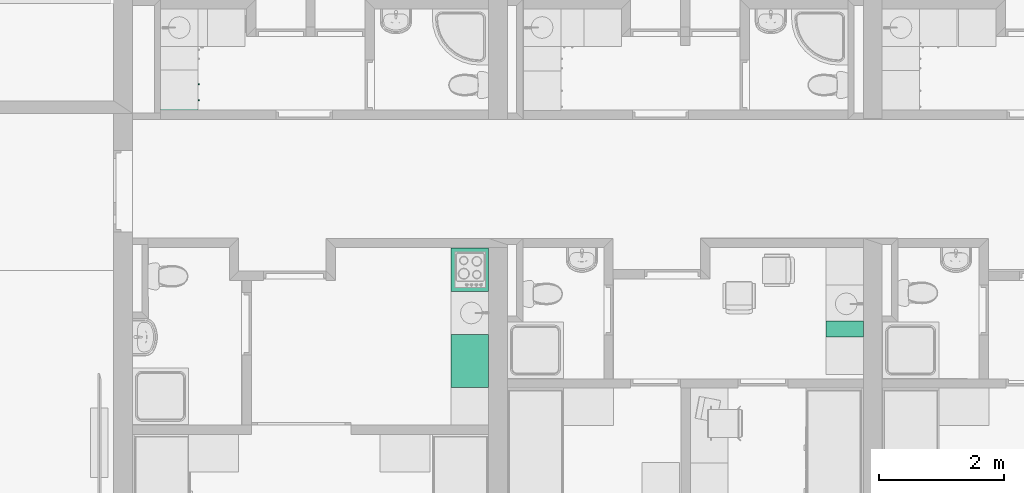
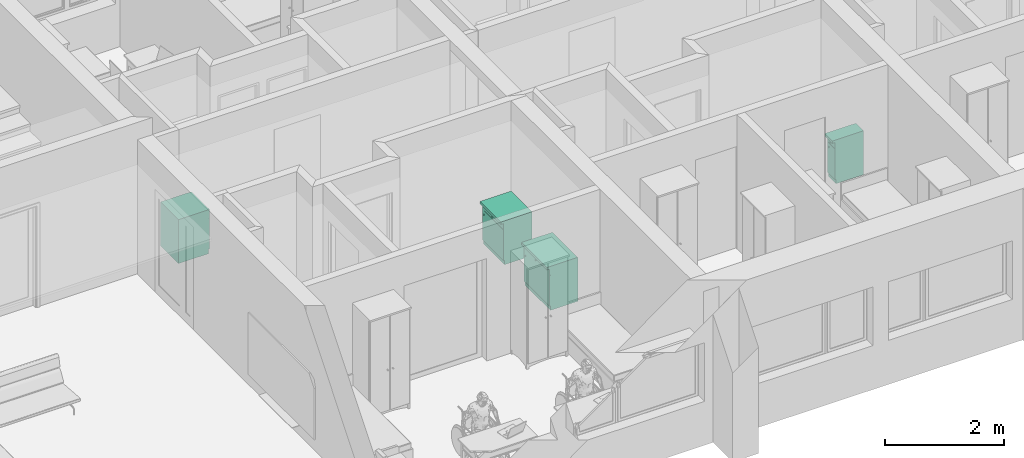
# One storey, part 67 of 172: 4 flow terminals.
"""IFC2X3 building model written with IfcOpenShell, lengths in millimetres."""

from ifc_helpers import new_model, entity, si_unit, converted_unit, money_unit, direction, frame, origin_with_axes, place, context, subcontext, project, spatial, faceted_brep, material, material_list, type_object, element, save


model = new_model("IFC2X3")

# Units and contexts
model_context = context("Model", 3, precision=1e-05, world=origin_with_axes(), true_north=direction((0.0, 1.0)))
body_context = subcontext(model_context, "Body", "Model", "MODEL_VIEW")
ifc_project = project(units=[si_unit("LENGTHUNIT", "METRE", prefix="MILLI"), si_unit("AREAUNIT", "SQUARE_METRE"), si_unit("VOLUMEUNIT", "CUBIC_METRE"), converted_unit("PLANEANGLEUNIT", "DEGREE", entity("IfcPlaneAngleMeasure", 0.0174532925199), si_unit("PLANEANGLEUNIT", "RADIAN"), dimensions=[0, 0, 0, 0, 0, 0, 0]), si_unit("SOLIDANGLEUNIT", "STERADIAN"), money_unit("USD"), converted_unit("TIMEUNIT", "Year", entity("IfcTimeMeasure", 31556926.0), si_unit("TIMEUNIT", "SECOND"), dimensions=[0, 0, 0, 0, 0, 0, 0]), si_unit("MASSUNIT", "GRAM"), si_unit("THERMODYNAMICTEMPERATUREUNIT", "DEGREE_CELSIUS"), si_unit("LUMINOUSINTENSITYUNIT", "LUMEN")], contexts=[model_context])

# Site, building, storey
site_placement = place(None, origin_with_axes())
site = spatial("IfcSite", under=ifc_project, at=site_placement, Name="Site", CompositionType="ELEMENT")
building_placement = place(site_placement, origin_with_axes())
building = spatial("IfcBuilding", under=site, at=building_placement, Name="Building", CompositionType="ELEMENT")
storey_placement = place(building_placement, frame((0.0, 0.0, 3200.0), z_axis=(0.0, 0.0, 1.0), x_axis=(1.0, 0.0, 0.0)))
storey = spatial("IfcBuildingStorey", under=building, at=storey_placement, Name="3KORRUS", CompositionType="ELEMENT", Elevation=3200.0)

# Flow terminals
ifc_material = material(Name="Background")
ifc_material_list = material_list([ifc_material])
sanitary_terminal_type = type_object("IfcSanitaryTerminalType", Name="Cabinet Base Single Door 19", PredefinedType="SINK")
flow_terminal_1_placement = place(storey_placement, frame((5109.70329669, -14619.2398994, 0.0), z_axis=(0.0, 0.0, 1.0), x_axis=(0.0, -1.0, 0.0)))
element("IfcFlowTerminal", 1, at=flow_terminal_1_placement, inside=storey, type_object=sanitary_terminal_type, material=ifc_material_list, Name="FU - 007", context=body_context, shape_type="Brep", body=[
    faceted_brep([(-20.0, 70.0, 710.0), (-20.0, 70.0, 730.0), (-234.469, 70.0, 730.0), (-234.469, 70.0, 710.0), (-20.0, 580.0, 710.0), (-20.0, 580.0, 730.0), (-234.469, 580.0, 730.0), (-234.469, 580.0, 710.0)], [[[0, 1, 2, 3]], [[4, 5, 1, 0]], [[1, 5, 6, 2]], [[3, 2, 6, 7]], [[0, 3, 7, 4]], [[7, 6, 5, 4]]]),
    faceted_brep([(0.0, 70.0, 0.0), (0.0, 70.0, 90.0), (-254.469, 70.0, 90.0), (-254.469, 70.0, 0.0), (0.0, 600.0, 0.0), (0.0, 600.0, 90.0), (-254.469, 600.0, 90.0), (-254.469, 600.0, 0.0)], [[[0, 1, 2, 3]], [[4, 5, 1, 0]], [[1, 5, 6, 2]], [[3, 2, 6, 7]], [[0, 3, 7, 4]], [[7, 6, 5, 4]]]),
    faceted_brep([(0.0, 70.0, 830.0), (0.0, 70.0, 850.0), (-20.0, 70.0, 850.0), (-20.0, 70.0, 830.0), (0.0, 600.0, 830.0), (0.0, 600.0, 850.0), (-20.0, 600.0, 850.0), (-234.469, 600.0, 850.0), (-254.469, 600.0, 850.0), (-254.469, 70.0, 850.0), (-234.469, 70.0, 850.0), (-234.469, 70.0, 830.0), (-254.469, 70.0, 830.0), (-254.469, 600.0, 830.0), (-234.469, 600.0, 830.0), (-20.0, 600.0, 830.0)], [[[0, 1, 2, 3]], [[4, 5, 1, 0]], [[1, 5, 6, 7, 8, 9, 10, 2]], [[3, 2, 10, 11]], [[0, 3, 11, 12, 13, 14, 15, 4]], [[15, 6, 5, 4]], [[14, 7, 6, 15]], [[13, 8, 7, 14]], [[12, 9, 8, 13]], [[11, 10, 9, 12]]]),
    faceted_brep([(0.0, 70.0, 90.0), (0.0, 70.0, 110.0), (-20.0, 70.0, 110.0), (-20.0, 70.0, 90.0), (0.0, 600.0, 90.0), (0.0, 600.0, 110.0), (-20.0, 600.0, 110.0), (-234.469, 600.0, 110.0), (-254.469, 600.0, 110.0), (-254.469, 70.0, 110.0), (-234.469, 70.0, 110.0), (-234.469, 70.0, 90.0), (-254.469, 70.0, 90.0), (-254.469, 600.0, 90.0), (-234.469, 600.0, 90.0), (-20.0, 600.0, 90.0)], [[[0, 1, 2, 3]], [[4, 5, 1, 0]], [[1, 5, 6, 7, 8, 9, 10, 2]], [[3, 2, 10, 11]], [[0, 3, 11, 12, 13, 14, 15, 4]], [[15, 6, 5, 4]], [[14, 7, 6, 15]], [[13, 8, 7, 14]], [[12, 9, 8, 13]], [[11, 10, 9, 12]]]),
    faceted_brep([(0.0, 70.0, 110.0), (0.0, 70.0, 830.0), (-20.0, 70.0, 830.0), (-20.0, 70.0, 110.0), (0.0, 600.0, 110.0), (0.0, 600.0, 830.0), (-254.469, 600.0, 830.0), (-254.469, 70.0, 830.0), (-234.469, 70.0, 830.0), (-234.469, 580.0, 830.0), (-20.0, 580.0, 830.0), (-20.0, 580.0, 110.0), (-234.469, 580.0, 110.0), (-234.469, 70.0, 110.0), (-254.469, 70.0, 110.0), (-254.469, 600.0, 110.0)], [[[0, 1, 2, 3]], [[4, 5, 1, 0]], [[1, 5, 6, 7, 8, 9, 10, 2]], [[3, 2, 10, 11]], [[0, 3, 11, 12, 13, 14, 15, 4]], [[15, 6, 5, 4]], [[14, 7, 6, 15]], [[13, 8, 7, 14]], [[12, 9, 8, 13]], [[11, 10, 9, 12]]]),
    faceted_brep([(-234.469, 70.0, 385.0), (-234.469, 70.0, 405.0), (-234.469, 580.0, 405.0), (-234.469, 580.0, 385.0), (-20.0, 70.0, 385.0), (-20.0, 70.0, 405.0), (-20.0, 580.0, 405.0), (-20.0, 580.0, 385.0)], [[[0, 1, 2, 3]], [[4, 5, 1, 0]], [[1, 5, 6, 2]], [[3, 2, 6, 7]], [[0, 3, 7, 4]], [[7, 6, 5, 4]]]),
    faceted_brep([(0.0, 0.0, 850.0), (0.0, 0.0, 900.0), (-254.469, 0.0, 900.0), (-254.469, 0.0, 850.0), (0.0, 600.0, 850.0), (0.0, 600.0, 900.0), (-254.469, 600.0, 900.0), (-254.469, 600.0, 850.0)], [[[0, 1, 2, 3]], [[4, 5, 1, 0]], [[1, 5, 6, 2]], [[3, 2, 6, 7]], [[0, 3, 7, 4]], [[7, 6, 5, 4]]]),
    faceted_brep([(-1.5, 70.0, 721.5), (-1.5, 50.0, 721.5), (-252.969, 50.0, 721.5), (-252.969, 70.0, 721.5), (-1.5, 70.0, 848.5), (-1.5, 50.0, 848.5), (-252.969, 50.0, 848.5), (-252.969, 70.0, 848.5)], [[[0, 1, 2, 3]], [[4, 5, 1, 0]], [[1, 5, 6, 2]], [[3, 2, 6, 7]], [[0, 3, 7, 4]], [[7, 6, 5, 4]]]),
    faceted_brep([(-122.642, 50.0, 773.913), (-127.235, 50.0, 773.0), (-131.827, 50.0, 773.913), (-135.72, 50.0, 776.515), (-138.321, 50.0, 780.408), (-139.235, 50.0, 785.0), (-138.321, 50.0, 789.592), (-135.72, 50.0, 793.485), (-131.827, 50.0, 796.087), (-127.235, 50.0, 797.0), (-122.642, 50.0, 796.087), (-118.749, 50.0, 793.485), (-116.148, 50.0, 789.592), (-115.235, 50.0, 785.0), (-116.148, 50.0, 780.408), (-118.749, 50.0, 776.515), (-122.642, 25.0, 773.913), (-127.235, 25.0, 773.0), (-131.827, 25.0, 773.913), (-135.72, 25.0, 776.515), (-138.321, 25.0, 780.408), (-139.235, 25.0, 785.0), (-138.321, 25.0, 789.592), (-135.72, 25.0, 793.485), (-131.827, 25.0, 796.087), (-127.235, 25.0, 797.0), (-122.642, 25.0, 796.087), (-118.749, 25.0, 793.485), (-116.148, 25.0, 789.592), (-115.235, 25.0, 785.0), (-116.148, 25.0, 780.408), (-118.749, 25.0, 776.515)], [[[0, 1, 2, 3, 4, 5, 6, 7, 8, 9, 10, 11, 12, 13, 14, 15]], [[0, 16, 17, 1]], [[1, 17, 18, 2]], [[2, 18, 19, 3]], [[3, 19, 20, 4]], [[4, 20, 21, 5]], [[5, 21, 22, 6]], [[6, 22, 23, 7]], [[7, 23, 24, 8]], [[8, 24, 25, 9]], [[9, 25, 26, 10]], [[10, 26, 27, 11]], [[11, 27, 28, 12]], [[12, 28, 29, 13]], [[13, 29, 30, 14]], [[14, 30, 31, 15]], [[15, 31, 16, 0]], [[16, 31, 30, 29, 28, 27, 26, 25, 24, 23, 22, 21, 20, 19, 18, 17]]]),
    faceted_brep([(-1.5, 70.0, 91.5), (-1.5, 50.0, 91.5), (-252.969, 50.0, 91.5), (-252.969, 70.0, 91.5), (-1.5, 70.0, 718.5), (-1.5, 50.0, 718.5), (-252.969, 50.0, 718.5), (-252.969, 70.0, 718.5)], [[[0, 1, 2, 3]], [[4, 5, 1, 0]], [[1, 5, 6, 2]], [[3, 2, 6, 7]], [[0, 3, 7, 4]], [[7, 6, 5, 4]]]),
    faceted_brep([(-214.056, 50.0, 636.908), (-214.969, 50.0, 641.5), (-214.056, 50.0, 646.092), (-211.455, 50.0, 649.985), (-207.562, 50.0, 652.587), (-202.969, 50.0, 653.5), (-198.377, 50.0, 652.587), (-194.484, 50.0, 649.985), (-191.883, 50.0, 646.092), (-190.969, 50.0, 641.5), (-191.883, 50.0, 636.908), (-194.484, 50.0, 633.015), (-198.377, 50.0, 630.413), (-202.969, 50.0, 629.5), (-207.562, 50.0, 630.413), (-211.455, 50.0, 633.015), (-214.056, 25.0, 636.908), (-214.969, 25.0, 641.5), (-214.056, 25.0, 646.092), (-211.455, 25.0, 649.985), (-207.562, 25.0, 652.587), (-202.969, 25.0, 653.5), (-198.377, 25.0, 652.587), (-194.484, 25.0, 649.985), (-191.883, 25.0, 646.092), (-190.969, 25.0, 641.5), (-191.883, 25.0, 636.908), (-194.484, 25.0, 633.015), (-198.377, 25.0, 630.413), (-202.969, 25.0, 629.5), (-207.562, 25.0, 630.413), (-211.455, 25.0, 633.015)], [[[0, 1, 2, 3, 4, 5, 6, 7, 8, 9, 10, 11, 12, 13, 14, 15]], [[0, 16, 17, 1]], [[1, 17, 18, 2]], [[2, 18, 19, 3]], [[3, 19, 20, 4]], [[4, 20, 21, 5]], [[5, 21, 22, 6]], [[6, 22, 23, 7]], [[7, 23, 24, 8]], [[8, 24, 25, 9]], [[9, 25, 26, 10]], [[10, 26, 27, 11]], [[11, 27, 28, 12]], [[12, 28, 29, 13]], [[13, 29, 30, 14]], [[14, 30, 31, 15]], [[15, 31, 16, 0]], [[16, 31, 30, 29, 28, 27, 26, 25, 24, 23, 22, 21, 20, 19, 18, 17]]]),
])
flow_terminal_2_placement = place(storey_placement, frame((-890.296703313, -13890.4698862, 0.0), z_axis=(0.0, 0.0, 1.0), x_axis=(0.0, -1.0, 0.0)))
element("IfcFlowTerminal", 2, at=flow_terminal_2_placement, inside=storey, type_object=sanitary_terminal_type, material=ifc_material_list, Name="FU - 007", context=body_context, shape_type="Brep", body=[
    faceted_brep([(-20.0, 70.0, 710.0), (-20.0, 70.0, 730.0), (-678.23, 70.0, 730.0), (-678.23, 70.0, 710.0), (-20.0, 580.0, 710.0), (-20.0, 580.0, 730.0), (-678.23, 580.0, 730.0), (-678.23, 580.0, 710.0)], [[[0, 1, 2, 3]], [[4, 5, 1, 0]], [[1, 5, 6, 2]], [[3, 2, 6, 7]], [[0, 3, 7, 4]], [[7, 6, 5, 4]]]),
    faceted_brep([(0.0, 70.0, 0.0), (0.0, 70.0, 90.0), (-698.23, 70.0, 90.0), (-698.23, 70.0, 0.0), (0.0, 600.0, 0.0), (0.0, 600.0, 90.0), (-698.23, 600.0, 90.0), (-698.23, 600.0, 0.0)], [[[0, 1, 2, 3]], [[4, 5, 1, 0]], [[1, 5, 6, 2]], [[3, 2, 6, 7]], [[0, 3, 7, 4]], [[7, 6, 5, 4]]]),
    faceted_brep([(0.0, 70.0, 830.0), (0.0, 70.0, 850.0), (-20.0, 70.0, 850.0), (-20.0, 70.0, 830.0), (0.0, 600.0, 830.0), (0.0, 600.0, 850.0), (-20.0, 600.0, 850.0), (-678.23, 600.0, 850.0), (-698.23, 600.0, 850.0), (-698.23, 70.0, 850.0), (-678.23, 70.0, 850.0), (-678.23, 70.0, 830.0), (-698.23, 70.0, 830.0), (-698.23, 600.0, 830.0), (-678.23, 600.0, 830.0), (-20.0, 600.0, 830.0)], [[[0, 1, 2, 3]], [[4, 5, 1, 0]], [[1, 5, 6, 7, 8, 9, 10, 2]], [[3, 2, 10, 11]], [[0, 3, 11, 12, 13, 14, 15, 4]], [[15, 6, 5, 4]], [[14, 7, 6, 15]], [[13, 8, 7, 14]], [[12, 9, 8, 13]], [[11, 10, 9, 12]]]),
    faceted_brep([(0.0, 70.0, 90.0), (0.0, 70.0, 110.0), (-20.0, 70.0, 110.0), (-20.0, 70.0, 90.0), (0.0, 600.0, 90.0), (0.0, 600.0, 110.0), (-20.0, 600.0, 110.0), (-678.23, 600.0, 110.0), (-698.23, 600.0, 110.0), (-698.23, 70.0, 110.0), (-678.23, 70.0, 110.0), (-678.23, 70.0, 90.0), (-698.23, 70.0, 90.0), (-698.23, 600.0, 90.0), (-678.23, 600.0, 90.0), (-20.0, 600.0, 90.0)], [[[0, 1, 2, 3]], [[4, 5, 1, 0]], [[1, 5, 6, 7, 8, 9, 10, 2]], [[3, 2, 10, 11]], [[0, 3, 11, 12, 13, 14, 15, 4]], [[15, 6, 5, 4]], [[14, 7, 6, 15]], [[13, 8, 7, 14]], [[12, 9, 8, 13]], [[11, 10, 9, 12]]]),
    faceted_brep([(0.0, 70.0, 110.0), (0.0, 70.0, 830.0), (-20.0, 70.0, 830.0), (-20.0, 70.0, 110.0), (0.0, 600.0, 110.0), (0.0, 600.0, 830.0), (-698.23, 600.0, 830.0), (-698.23, 70.0, 830.0), (-678.23, 70.0, 830.0), (-678.23, 580.0, 830.0), (-20.0, 580.0, 830.0), (-20.0, 580.0, 110.0), (-678.23, 580.0, 110.0), (-678.23, 70.0, 110.0), (-698.23, 70.0, 110.0), (-698.23, 600.0, 110.0)], [[[0, 1, 2, 3]], [[4, 5, 1, 0]], [[1, 5, 6, 7, 8, 9, 10, 2]], [[3, 2, 10, 11]], [[0, 3, 11, 12, 13, 14, 15, 4]], [[15, 6, 5, 4]], [[14, 7, 6, 15]], [[13, 8, 7, 14]], [[12, 9, 8, 13]], [[11, 10, 9, 12]]]),
    faceted_brep([(-678.23, 70.0, 385.0), (-678.23, 70.0, 405.0), (-678.23, 580.0, 405.0), (-678.23, 580.0, 385.0), (-20.0, 70.0, 385.0), (-20.0, 70.0, 405.0), (-20.0, 580.0, 405.0), (-20.0, 580.0, 385.0)], [[[0, 1, 2, 3]], [[4, 5, 1, 0]], [[1, 5, 6, 2]], [[3, 2, 6, 7]], [[0, 3, 7, 4]], [[7, 6, 5, 4]]]),
    faceted_brep([(0.0, 0.0, 850.0), (0.0, 0.0, 900.0), (-698.23, 0.0, 900.0), (-698.23, 0.0, 850.0), (0.0, 600.0, 850.0), (0.0, 600.0, 900.0), (-698.23, 600.0, 900.0), (-698.23, 600.0, 850.0)], [[[0, 1, 2, 3]], [[4, 5, 1, 0]], [[1, 5, 6, 2]], [[3, 2, 6, 7]], [[0, 3, 7, 4]], [[7, 6, 5, 4]]]),
    faceted_brep([(-1.5, 70.0, 721.5), (-1.5, 50.0, 721.5), (-696.73, 50.0, 721.5), (-696.73, 70.0, 721.5), (-1.5, 70.0, 848.5), (-1.5, 50.0, 848.5), (-696.73, 50.0, 848.5), (-696.73, 70.0, 848.5)], [[[0, 1, 2, 3]], [[4, 5, 1, 0]], [[1, 5, 6, 2]], [[3, 2, 6, 7]], [[0, 3, 7, 4]], [[7, 6, 5, 4]]]),
    faceted_brep([(-344.523, 50.0, 773.913), (-349.115, 50.0, 773.0), (-353.707, 50.0, 773.913), (-357.6, 50.0, 776.515), (-360.202, 50.0, 780.408), (-361.115, 50.0, 785.0), (-360.202, 50.0, 789.592), (-357.6, 50.0, 793.485), (-353.707, 50.0, 796.087), (-349.115, 50.0, 797.0), (-344.523, 50.0, 796.087), (-340.63, 50.0, 793.485), (-338.028, 50.0, 789.592), (-337.115, 50.0, 785.0), (-338.028, 50.0, 780.408), (-340.63, 50.0, 776.515), (-344.523, 25.0, 773.913), (-349.115, 25.0, 773.0), (-353.707, 25.0, 773.913), (-357.6, 25.0, 776.515), (-360.202, 25.0, 780.408), (-361.115, 25.0, 785.0), (-360.202, 25.0, 789.592), (-357.6, 25.0, 793.485), (-353.707, 25.0, 796.087), (-349.115, 25.0, 797.0), (-344.523, 25.0, 796.087), (-340.63, 25.0, 793.485), (-338.028, 25.0, 789.592), (-337.115, 25.0, 785.0), (-338.028, 25.0, 780.408), (-340.63, 25.0, 776.515)], [[[0, 1, 2, 3, 4, 5, 6, 7, 8, 9, 10, 11, 12, 13, 14, 15]], [[0, 16, 17, 1]], [[1, 17, 18, 2]], [[2, 18, 19, 3]], [[3, 19, 20, 4]], [[4, 20, 21, 5]], [[5, 21, 22, 6]], [[6, 22, 23, 7]], [[7, 23, 24, 8]], [[8, 24, 25, 9]], [[9, 25, 26, 10]], [[10, 26, 27, 11]], [[11, 27, 28, 12]], [[12, 28, 29, 13]], [[13, 29, 30, 14]], [[14, 30, 31, 15]], [[15, 31, 16, 0]], [[16, 31, 30, 29, 28, 27, 26, 25, 24, 23, 22, 21, 20, 19, 18, 17]]]),
    faceted_brep([(-1.5, 70.0, 91.5), (-1.5, 50.0, 91.5), (-696.73, 50.0, 91.5), (-696.73, 70.0, 91.5), (-1.5, 70.0, 718.5), (-1.5, 50.0, 718.5), (-696.73, 50.0, 718.5), (-696.73, 70.0, 718.5)], [[[0, 1, 2, 3]], [[4, 5, 1, 0]], [[1, 5, 6, 2]], [[3, 2, 6, 7]], [[0, 3, 7, 4]], [[7, 6, 5, 4]]]),
    faceted_brep([(-657.817, 50.0, 636.908), (-658.73, 50.0, 641.5), (-657.817, 50.0, 646.092), (-655.215, 50.0, 649.985), (-651.322, 50.0, 652.587), (-646.73, 50.0, 653.5), (-642.138, 50.0, 652.587), (-638.245, 50.0, 649.985), (-635.643, 50.0, 646.092), (-634.73, 50.0, 641.5), (-635.643, 50.0, 636.908), (-638.245, 50.0, 633.015), (-642.138, 50.0, 630.413), (-646.73, 50.0, 629.5), (-651.322, 50.0, 630.413), (-655.215, 50.0, 633.015), (-657.817, 25.0, 636.908), (-658.73, 25.0, 641.5), (-657.817, 25.0, 646.092), (-655.215, 25.0, 649.985), (-651.322, 25.0, 652.587), (-646.73, 25.0, 653.5), (-642.138, 25.0, 652.587), (-638.245, 25.0, 649.985), (-635.643, 25.0, 646.092), (-634.73, 25.0, 641.5), (-635.643, 25.0, 636.908), (-638.245, 25.0, 633.015), (-642.138, 25.0, 630.413), (-646.73, 25.0, 629.5), (-651.322, 25.0, 630.413), (-655.215, 25.0, 633.015)], [[[0, 1, 2, 3, 4, 5, 6, 7, 8, 9, 10, 11, 12, 13, 14, 15]], [[0, 16, 17, 1]], [[1, 17, 18, 2]], [[2, 18, 19, 3]], [[3, 19, 20, 4]], [[4, 20, 21, 5]], [[5, 21, 22, 6]], [[6, 22, 23, 7]], [[7, 23, 24, 8]], [[8, 24, 25, 9]], [[9, 25, 26, 10]], [[10, 26, 27, 11]], [[11, 27, 28, 12]], [[12, 28, 29, 13]], [[13, 29, 30, 14]], [[14, 30, 31, 15]], [[15, 31, 16, 0]], [[16, 31, 30, 29, 28, 27, 26, 25, 24, 23, 22, 21, 20, 19, 18, 17]]]),
])
flow_terminal_3_placement = place(storey_placement, frame((-4940.30226501, -11126.6198574, 0.0), z_axis=(0.0, 0.0, 1.0), x_axis=(0.0, 1.0, 0.0)))
element("IfcFlowTerminal", 3, at=flow_terminal_3_placement, inside=storey, type_object=sanitary_terminal_type, material=ifc_material_list, Name="FU - 007", context=body_context, shape_type="Brep", body=[
    faceted_brep([(20.0, 20.0, 710.0), (580.0, 20.0, 710.0), (580.0, 20.0, 730.0), (20.0, 20.0, 730.0), (20.0, 580.0, 710.0), (580.0, 580.0, 710.0), (580.0, 580.0, 730.0), (20.0, 580.0, 730.0)], [[[0, 1, 2, 3]], [[0, 4, 5, 1]], [[1, 5, 6, 2]], [[3, 2, 6, 7]], [[4, 0, 3, 7]], [[5, 4, 7, 6]]]),
    faceted_brep([(0.0, 20.0, 0.0), (600.0, 20.0, 0.0), (600.0, 20.0, 90.0), (0.0, 20.0, 90.0), (0.0, 600.0, 0.0), (600.0, 600.0, 0.0), (600.0, 600.0, 90.0), (0.0, 600.0, 90.0)], [[[0, 1, 2, 3]], [[0, 4, 5, 1]], [[1, 5, 6, 2]], [[3, 2, 6, 7]], [[4, 0, 3, 7]], [[5, 4, 7, 6]]]),
    faceted_brep([(0.0, 20.0, 830.0), (20.0, 20.0, 830.0), (20.0, 20.0, 850.0), (0.0, 20.0, 850.0), (0.0, 600.0, 830.0), (20.0, 600.0, 830.0), (580.0, 600.0, 830.0), (600.0, 600.0, 830.0), (600.0, 20.0, 830.0), (580.0, 20.0, 830.0), (580.0, 20.0, 850.0), (600.0, 20.0, 850.0), (600.0, 600.0, 850.0), (580.0, 600.0, 850.0), (20.0, 600.0, 850.0), (0.0, 600.0, 850.0)], [[[0, 1, 2, 3]], [[0, 4, 5, 6, 7, 8, 9, 1]], [[1, 9, 10, 2]], [[3, 2, 10, 11, 12, 13, 14, 15]], [[4, 0, 3, 15]], [[5, 4, 15, 14]], [[6, 5, 14, 13]], [[7, 6, 13, 12]], [[8, 7, 12, 11]], [[9, 8, 11, 10]]]),
    faceted_brep([(0.0, 20.0, 90.0), (20.0, 20.0, 90.0), (20.0, 20.0, 110.0), (0.0, 20.0, 110.0), (0.0, 600.0, 90.0), (20.0, 600.0, 90.0), (580.0, 600.0, 90.0), (600.0, 600.0, 90.0), (600.0, 20.0, 90.0), (580.0, 20.0, 90.0), (580.0, 20.0, 110.0), (600.0, 20.0, 110.0), (600.0, 600.0, 110.0), (580.0, 600.0, 110.0), (20.0, 600.0, 110.0), (0.0, 600.0, 110.0)], [[[0, 1, 2, 3]], [[0, 4, 5, 6, 7, 8, 9, 1]], [[1, 9, 10, 2]], [[3, 2, 10, 11, 12, 13, 14, 15]], [[4, 0, 3, 15]], [[5, 4, 15, 14]], [[6, 5, 14, 13]], [[7, 6, 13, 12]], [[8, 7, 12, 11]], [[9, 8, 11, 10]]]),
    faceted_brep([(0.0, 20.0, 110.0), (20.0, 20.0, 110.0), (20.0, 20.0, 830.0), (0.0, 20.0, 830.0), (0.0, 600.0, 110.0), (600.0, 600.0, 110.0), (600.0, 20.0, 110.0), (580.0, 20.0, 110.0), (580.0, 580.0, 110.0), (20.0, 580.0, 110.0), (20.0, 580.0, 830.0), (580.0, 580.0, 830.0), (580.0, 20.0, 830.0), (600.0, 20.0, 830.0), (600.0, 600.0, 830.0), (0.0, 600.0, 830.0)], [[[0, 1, 2, 3]], [[0, 4, 5, 6, 7, 8, 9, 1]], [[1, 9, 10, 2]], [[3, 2, 10, 11, 12, 13, 14, 15]], [[4, 0, 3, 15]], [[5, 4, 15, 14]], [[6, 5, 14, 13]], [[7, 6, 13, 12]], [[8, 7, 12, 11]], [[9, 8, 11, 10]]]),
    faceted_brep([(580.0, 20.0, 385.0), (580.0, 580.0, 385.0), (580.0, 580.0, 405.0), (580.0, 20.0, 405.0), (20.0, 20.0, 385.0), (20.0, 580.0, 385.0), (20.0, 580.0, 405.0), (20.0, 20.0, 405.0)], [[[0, 1, 2, 3]], [[0, 4, 5, 1]], [[1, 5, 6, 2]], [[3, 2, 6, 7]], [[4, 0, 3, 7]], [[5, 4, 7, 6]]]),
    faceted_brep([(0.0, 0.0, 850.0), (600.0, 0.0, 850.0), (600.0, 0.0, 900.0), (0.0, 0.0, 900.0), (0.0, 600.0, 850.0), (600.0, 600.0, 850.0), (600.0, 600.0, 900.0), (0.0, 600.0, 900.0)], [[[0, 1, 2, 3]], [[0, 4, 5, 1]], [[1, 5, 6, 2]], [[3, 2, 6, 7]], [[4, 0, 3, 7]], [[5, 4, 7, 6]]]),
    faceted_brep([(1.5, 20.0, 721.5), (598.5, 20.0, 721.5), (598.5, 0.0, 721.5), (1.5, 0.0, 721.5), (1.5, 20.0, 848.5), (598.5, 20.0, 848.5), (598.5, 0.0, 848.5), (1.5, 0.0, 848.5)], [[[0, 1, 2, 3]], [[0, 4, 5, 1]], [[1, 5, 6, 2]], [[3, 2, 6, 7]], [[4, 0, 3, 7]], [[5, 4, 7, 6]]]),
    faceted_brep([(295.408, 0.0, 773.913), (291.515, 0.0, 776.515), (288.913, 0.0, 780.408), (288.0, 0.0, 785.0), (288.913, 0.0, 789.592), (291.515, 0.0, 793.485), (295.408, 0.0, 796.087), (300.0, 0.0, 797.0), (304.592, 0.0, 796.087), (308.485, 0.0, 793.485), (311.087, 0.0, 789.592), (312.0, 0.0, 785.0), (311.087, 0.0, 780.408), (308.485, 0.0, 776.515), (304.592, 0.0, 773.913), (300.0, 0.0, 773.0), (295.408, -25.0, 773.913), (291.515, -25.0, 776.515), (288.913, -25.0, 780.408), (288.0, -25.0, 785.0), (288.913, -25.0, 789.592), (291.515, -25.0, 793.485), (295.408, -25.0, 796.087), (300.0, -25.0, 797.0), (304.592, -25.0, 796.087), (308.485, -25.0, 793.485), (311.087, -25.0, 789.592), (312.0, -25.0, 785.0), (311.087, -25.0, 780.408), (308.485, -25.0, 776.515), (304.592, -25.0, 773.913), (300.0, -25.0, 773.0)], [[[0, 1, 2, 3, 4, 5, 6, 7, 8, 9, 10, 11, 12, 13, 14, 15]], [[1, 0, 16, 17]], [[2, 1, 17, 18]], [[3, 2, 18, 19]], [[4, 3, 19, 20]], [[5, 4, 20, 21]], [[6, 5, 21, 22]], [[7, 6, 22, 23]], [[8, 7, 23, 24]], [[9, 8, 24, 25]], [[10, 9, 25, 26]], [[11, 10, 26, 27]], [[12, 11, 27, 28]], [[13, 12, 28, 29]], [[14, 13, 29, 30]], [[15, 14, 30, 31]], [[0, 15, 31, 16]], [[16, 31, 30, 29, 28, 27, 26, 25, 24, 23, 22, 21, 20, 19, 18, 17]]]),
    faceted_brep([(1.5, 20.0, 91.5), (598.5, 20.0, 91.5), (598.5, 0.0, 91.5), (1.5, 0.0, 91.5), (1.5, 20.0, 718.5), (598.5, 20.0, 718.5), (598.5, 0.0, 718.5), (1.5, 0.0, 718.5)], [[[0, 1, 2, 3]], [[0, 4, 5, 1]], [[1, 5, 6, 2]], [[3, 2, 6, 7]], [[4, 0, 3, 7]], [[5, 4, 7, 6]]]),
    faceted_brep([(559.587, 0.0, 636.908), (556.985, 0.0, 633.015), (553.092, 0.0, 630.413), (548.5, 0.0, 629.5), (543.908, 0.0, 630.413), (540.015, 0.0, 633.015), (537.413, 0.0, 636.908), (536.5, 0.0, 641.5), (537.413, 0.0, 646.092), (540.015, 0.0, 649.985), (543.908, 0.0, 652.587), (548.5, 0.0, 653.5), (553.092, 0.0, 652.587), (556.985, 0.0, 649.985), (559.587, 0.0, 646.092), (560.5, 0.0, 641.5), (559.587, -25.0, 636.908), (556.985, -25.0, 633.015), (553.092, -25.0, 630.413), (548.5, -25.0, 629.5), (543.908, -25.0, 630.413), (540.015, -25.0, 633.015), (537.413, -25.0, 636.908), (536.5, -25.0, 641.5), (537.413, -25.0, 646.092), (540.015, -25.0, 649.985), (543.908, -25.0, 652.587), (548.5, -25.0, 653.5), (553.092, -25.0, 652.587), (556.985, -25.0, 649.985), (559.587, -25.0, 646.092), (560.5, -25.0, 641.5)], [[[0, 1, 2, 3, 4, 5, 6, 7, 8, 9, 10, 11, 12, 13, 14, 15]], [[1, 0, 16, 17]], [[2, 1, 17, 18]], [[3, 2, 18, 19]], [[4, 3, 19, 20]], [[5, 4, 20, 21]], [[6, 5, 21, 22]], [[7, 6, 22, 23]], [[8, 7, 23, 24]], [[9, 8, 24, 25]], [[10, 9, 25, 26]], [[11, 10, 26, 27]], [[12, 11, 27, 28]], [[13, 12, 28, 29]], [[14, 13, 29, 30]], [[15, 14, 30, 31]], [[0, 15, 31, 16]], [[16, 31, 30, 29, 28, 27, 26, 25, 24, 23, 22, 21, 20, 19, 18, 17]]]),
])
flow_terminal_4_placement = place(storey_placement, frame((-890.296703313, -15429.7357921, 0.0), z_axis=(0.0, 0.0, 1.0), x_axis=(0.0, -1.0, 0.0)))
element("IfcFlowTerminal", 4, at=flow_terminal_4_placement, inside=storey, type_object=sanitary_terminal_type, material=ifc_material_list, Name="FU - 007", context=body_context, shape_type="Brep", body=[
    faceted_brep([(-20.0, 70.0, 710.0), (-20.0, 70.0, 730.0), (-829.502, 70.0, 730.0), (-829.502, 70.0, 710.0), (-20.0, 580.0, 710.0), (-20.0, 580.0, 730.0), (-829.502, 580.0, 730.0), (-829.502, 580.0, 710.0)], [[[0, 1, 2, 3]], [[4, 5, 1, 0]], [[1, 5, 6, 2]], [[3, 2, 6, 7]], [[0, 3, 7, 4]], [[7, 6, 5, 4]]]),
    faceted_brep([(0.0, 70.0, 0.0), (0.0, 70.0, 90.0), (-849.502, 70.0, 90.0), (-849.502, 70.0, 0.0), (0.0, 600.0, 0.0), (0.0, 600.0, 90.0), (-849.502, 600.0, 90.0), (-849.502, 600.0, 0.0)], [[[0, 1, 2, 3]], [[4, 5, 1, 0]], [[1, 5, 6, 2]], [[3, 2, 6, 7]], [[0, 3, 7, 4]], [[7, 6, 5, 4]]]),
    faceted_brep([(0.0, 70.0, 830.0), (0.0, 70.0, 850.0), (-20.0, 70.0, 850.0), (-20.0, 70.0, 830.0), (0.0, 600.0, 830.0), (0.0, 600.0, 850.0), (-20.0, 600.0, 850.0), (-829.502, 600.0, 850.0), (-849.502, 600.0, 850.0), (-849.502, 70.0, 850.0), (-829.502, 70.0, 850.0), (-829.502, 70.0, 830.0), (-849.502, 70.0, 830.0), (-849.502, 600.0, 830.0), (-829.502, 600.0, 830.0), (-20.0, 600.0, 830.0)], [[[0, 1, 2, 3]], [[4, 5, 1, 0]], [[1, 5, 6, 7, 8, 9, 10, 2]], [[3, 2, 10, 11]], [[0, 3, 11, 12, 13, 14, 15, 4]], [[15, 6, 5, 4]], [[14, 7, 6, 15]], [[13, 8, 7, 14]], [[12, 9, 8, 13]], [[11, 10, 9, 12]]]),
    faceted_brep([(0.0, 70.0, 90.0), (0.0, 70.0, 110.0), (-20.0, 70.0, 110.0), (-20.0, 70.0, 90.0), (0.0, 600.0, 90.0), (0.0, 600.0, 110.0), (-20.0, 600.0, 110.0), (-829.502, 600.0, 110.0), (-849.502, 600.0, 110.0), (-849.502, 70.0, 110.0), (-829.502, 70.0, 110.0), (-829.502, 70.0, 90.0), (-849.502, 70.0, 90.0), (-849.502, 600.0, 90.0), (-829.502, 600.0, 90.0), (-20.0, 600.0, 90.0)], [[[0, 1, 2, 3]], [[4, 5, 1, 0]], [[1, 5, 6, 7, 8, 9, 10, 2]], [[3, 2, 10, 11]], [[0, 3, 11, 12, 13, 14, 15, 4]], [[15, 6, 5, 4]], [[14, 7, 6, 15]], [[13, 8, 7, 14]], [[12, 9, 8, 13]], [[11, 10, 9, 12]]]),
    faceted_brep([(0.0, 70.0, 110.0), (0.0, 70.0, 830.0), (-20.0, 70.0, 830.0), (-20.0, 70.0, 110.0), (0.0, 600.0, 110.0), (0.0, 600.0, 830.0), (-849.502, 600.0, 830.0), (-849.502, 70.0, 830.0), (-829.502, 70.0, 830.0), (-829.502, 580.0, 830.0), (-20.0, 580.0, 830.0), (-20.0, 580.0, 110.0), (-829.502, 580.0, 110.0), (-829.502, 70.0, 110.0), (-849.502, 70.0, 110.0), (-849.502, 600.0, 110.0)], [[[0, 1, 2, 3]], [[4, 5, 1, 0]], [[1, 5, 6, 7, 8, 9, 10, 2]], [[3, 2, 10, 11]], [[0, 3, 11, 12, 13, 14, 15, 4]], [[15, 6, 5, 4]], [[14, 7, 6, 15]], [[13, 8, 7, 14]], [[12, 9, 8, 13]], [[11, 10, 9, 12]]]),
    faceted_brep([(-829.502, 70.0, 385.0), (-829.502, 70.0, 405.0), (-829.502, 580.0, 405.0), (-829.502, 580.0, 385.0), (-20.0, 70.0, 385.0), (-20.0, 70.0, 405.0), (-20.0, 580.0, 405.0), (-20.0, 580.0, 385.0)], [[[0, 1, 2, 3]], [[4, 5, 1, 0]], [[1, 5, 6, 2]], [[3, 2, 6, 7]], [[0, 3, 7, 4]], [[7, 6, 5, 4]]]),
    faceted_brep([(0.0, 0.0, 850.0), (0.0, 0.0, 900.0), (-849.502, 0.0, 900.0), (-849.502, 0.0, 850.0), (0.0, 600.0, 850.0), (0.0, 600.0, 900.0), (-849.502, 600.0, 900.0), (-849.502, 600.0, 850.0)], [[[0, 1, 2, 3]], [[4, 5, 1, 0]], [[1, 5, 6, 2]], [[3, 2, 6, 7]], [[0, 3, 7, 4]], [[7, 6, 5, 4]]]),
    faceted_brep([(-1.5, 70.0, 721.5), (-1.5, 50.0, 721.5), (-848.002, 50.0, 721.5), (-848.002, 70.0, 721.5), (-1.5, 70.0, 848.5), (-1.5, 50.0, 848.5), (-848.002, 50.0, 848.5), (-848.002, 70.0, 848.5)], [[[0, 1, 2, 3]], [[4, 5, 1, 0]], [[1, 5, 6, 2]], [[3, 2, 6, 7]], [[0, 3, 7, 4]], [[7, 6, 5, 4]]]),
    faceted_brep([(-420.159, 50.0, 773.913), (-424.751, 50.0, 773.0), (-429.343, 50.0, 773.913), (-433.236, 50.0, 776.515), (-435.837, 50.0, 780.408), (-436.751, 50.0, 785.0), (-435.837, 50.0, 789.592), (-433.236, 50.0, 793.485), (-429.343, 50.0, 796.087), (-424.751, 50.0, 797.0), (-420.159, 50.0, 796.087), (-416.266, 50.0, 793.485), (-413.664, 50.0, 789.592), (-412.751, 50.0, 785.0), (-413.664, 50.0, 780.408), (-416.266, 50.0, 776.515), (-420.159, 25.0, 773.913), (-424.751, 25.0, 773.0), (-429.343, 25.0, 773.913), (-433.236, 25.0, 776.515), (-435.837, 25.0, 780.408), (-436.751, 25.0, 785.0), (-435.837, 25.0, 789.592), (-433.236, 25.0, 793.485), (-429.343, 25.0, 796.087), (-424.751, 25.0, 797.0), (-420.159, 25.0, 796.087), (-416.266, 25.0, 793.485), (-413.664, 25.0, 789.592), (-412.751, 25.0, 785.0), (-413.664, 25.0, 780.408), (-416.266, 25.0, 776.515)], [[[0, 1, 2, 3, 4, 5, 6, 7, 8, 9, 10, 11, 12, 13, 14, 15]], [[0, 16, 17, 1]], [[1, 17, 18, 2]], [[2, 18, 19, 3]], [[3, 19, 20, 4]], [[4, 20, 21, 5]], [[5, 21, 22, 6]], [[6, 22, 23, 7]], [[7, 23, 24, 8]], [[8, 24, 25, 9]], [[9, 25, 26, 10]], [[10, 26, 27, 11]], [[11, 27, 28, 12]], [[12, 28, 29, 13]], [[13, 29, 30, 14]], [[14, 30, 31, 15]], [[15, 31, 16, 0]], [[16, 31, 30, 29, 28, 27, 26, 25, 24, 23, 22, 21, 20, 19, 18, 17]]]),
    faceted_brep([(-1.5, 70.0, 91.5), (-1.5, 50.0, 91.5), (-848.002, 50.0, 91.5), (-848.002, 70.0, 91.5), (-1.5, 70.0, 718.5), (-1.5, 50.0, 718.5), (-848.002, 50.0, 718.5), (-848.002, 70.0, 718.5)], [[[0, 1, 2, 3]], [[4, 5, 1, 0]], [[1, 5, 6, 2]], [[3, 2, 6, 7]], [[0, 3, 7, 4]], [[7, 6, 5, 4]]]),
    faceted_brep([(-809.088, 50.0, 636.908), (-810.002, 50.0, 641.5), (-809.088, 50.0, 646.092), (-806.487, 50.0, 649.985), (-802.594, 50.0, 652.587), (-798.002, 50.0, 653.5), (-793.409, 50.0, 652.587), (-789.516, 50.0, 649.985), (-786.915, 50.0, 646.092), (-786.002, 50.0, 641.5), (-786.915, 50.0, 636.908), (-789.516, 50.0, 633.015), (-793.409, 50.0, 630.413), (-798.002, 50.0, 629.5), (-802.594, 50.0, 630.413), (-806.487, 50.0, 633.015), (-809.088, 25.0, 636.908), (-810.002, 25.0, 641.5), (-809.088, 25.0, 646.092), (-806.487, 25.0, 649.985), (-802.594, 25.0, 652.587), (-798.002, 25.0, 653.5), (-793.409, 25.0, 652.587), (-789.516, 25.0, 649.985), (-786.915, 25.0, 646.092), (-786.002, 25.0, 641.5), (-786.915, 25.0, 636.908), (-789.516, 25.0, 633.015), (-793.409, 25.0, 630.413), (-798.002, 25.0, 629.5), (-802.594, 25.0, 630.413), (-806.487, 25.0, 633.015)], [[[0, 1, 2, 3, 4, 5, 6, 7, 8, 9, 10, 11, 12, 13, 14, 15]], [[0, 16, 17, 1]], [[1, 17, 18, 2]], [[2, 18, 19, 3]], [[3, 19, 20, 4]], [[4, 20, 21, 5]], [[5, 21, 22, 6]], [[6, 22, 23, 7]], [[7, 23, 24, 8]], [[8, 24, 25, 9]], [[9, 25, 26, 10]], [[10, 26, 27, 11]], [[11, 27, 28, 12]], [[12, 28, 29, 13]], [[13, 29, 30, 14]], [[14, 30, 31, 15]], [[15, 31, 16, 0]], [[16, 31, 30, 29, 28, 27, 26, 25, 24, 23, 22, 21, 20, 19, 18, 17]]]),
])

save(model, "model.ifc")
